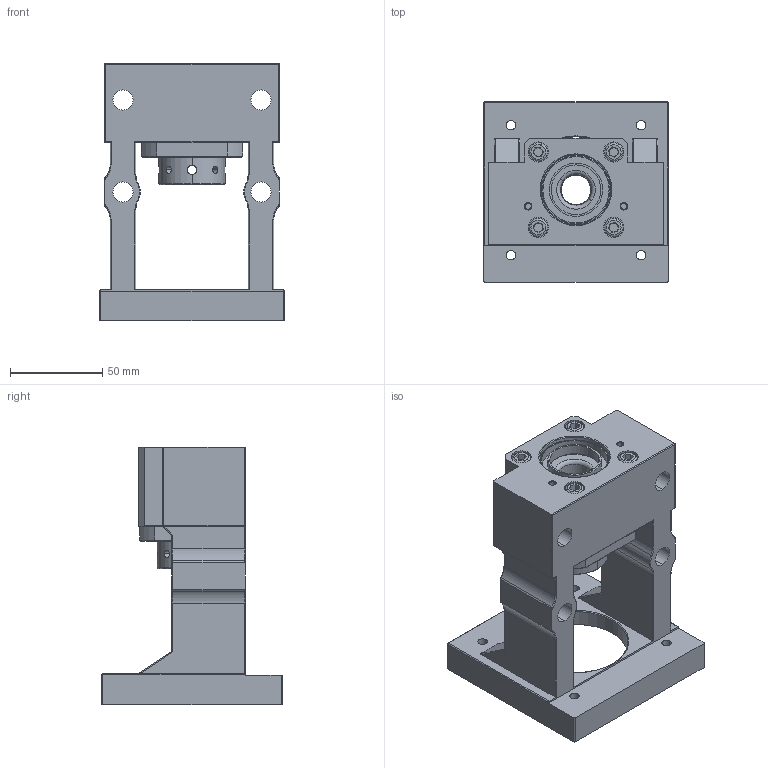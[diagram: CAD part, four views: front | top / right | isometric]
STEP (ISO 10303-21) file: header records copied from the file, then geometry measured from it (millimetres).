
FILE_DESCRIPTION (( 'STEP AP203' ), '1' );
FILE_NAME ('MBCS17-X.STEP', '2017-12-28T07:50:32', ( '' ), ( '' ), 'SwSTEP 2.0', 'SolidWorks 2017', '' );
FILE_SCHEMA (( 'CONFIG_CONTROL_DESIGN' ));
Length unit declared in the file: millimetre
Products named in the file (1): MBCS17-X
Bounding box: 100 x 98 x 140 mm (x, y, z)
Surface area: 85732.7 mm2 (no closed solid volume)
Topology: 0 solids, 16 shells, 348 faces, 890 edges, 554 vertices
Faces by surface type: cylinder 150, plane 96, cone 52, torus 48, sphere 2
Entity records: 11330 total; most frequent: CARTESIAN_POINT 2717, DIRECTION 1912, ORIENTED_EDGE 1642, EDGE_CURVE 878, AXIS2_PLACEMENT_3D 755, VERTEX_POINT 554, EDGE_LOOP 414, CIRCLE 406
